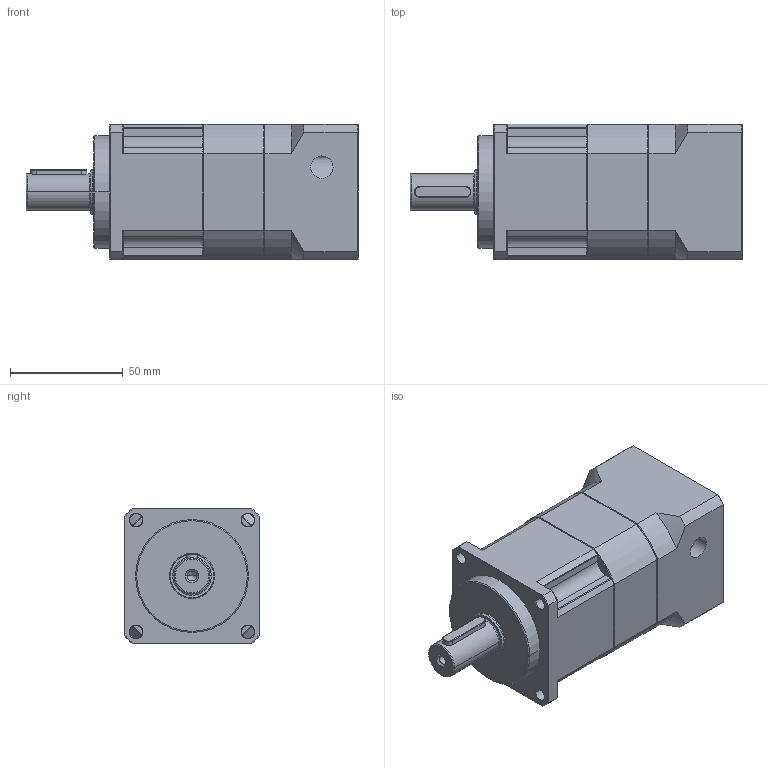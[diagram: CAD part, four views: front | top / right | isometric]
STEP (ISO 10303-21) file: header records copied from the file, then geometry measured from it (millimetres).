
FILE_DESCRIPTION (( 'STEP AP214' ), '1' );
FILE_NAME ('XAB060-L2-[ ]-P2 14-30-50-70-M5 bzscz16.STEP', '2024-05-29T03:05:13', ( '' ), ( '' ), 'SwSTEP 2.0', 'SolidWorks 2021', '' );
FILE_SCHEMA (( 'AUTOMOTIVE_DESIGN' ));
Length unit declared in the file: millimetre
Products named in the file (1): XAB060-L2-[   ]-P2 14-30-50-70-M5 bzscz16
Bounding box: 147 x 60 x 60 mm (x, y, z)
Volume: 331729.5 mm3; surface area: 75647.4 mm2
Topology: 11 solids, 11 shells, 1505 faces, 3872 edges, 2466 vertices
Faces by surface type: plane 737, bspline 312, cylinder 230, cone 202, torus 24
Entity records: 61972 total; most frequent: CARTESIAN_POINT 25602, ORIENTED_EDGE 7664, DIRECTION 6197, EDGE_CURVE 3832, VERTEX_POINT 2466, LINE 2391, VECTOR 2391, AXIS2_PLACEMENT_3D 1903
